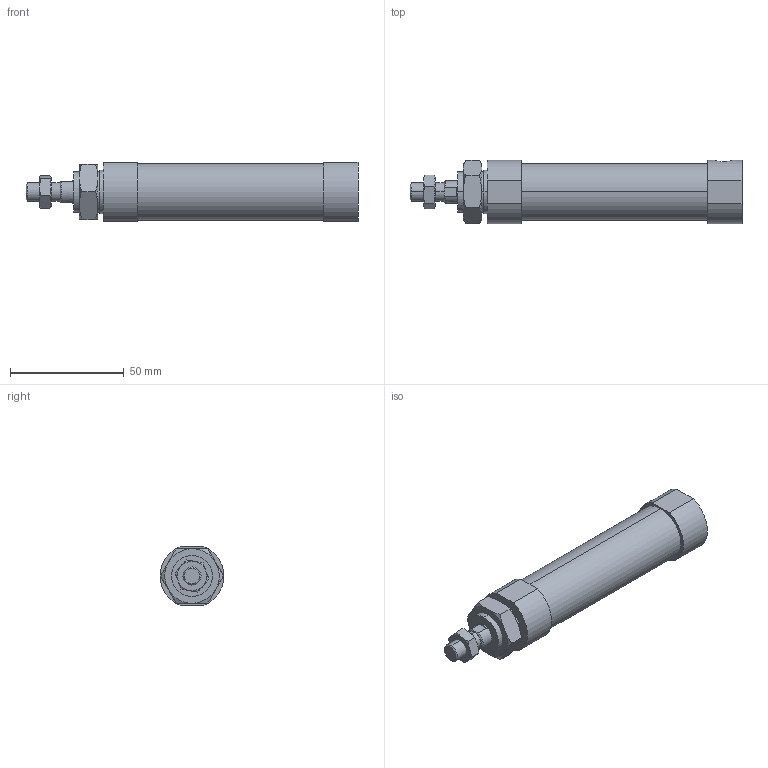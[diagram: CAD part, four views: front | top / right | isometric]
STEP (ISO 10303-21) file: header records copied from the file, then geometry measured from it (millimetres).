
FILE_DESCRIPTION (( 'STEP AP203' ), '1' );
FILE_NAME ('JGND1-20-15(25)-N.STEP', '2016-08-04T02:13:09', ( '' ), ( '' ), 'SwSTEP 2.0', 'SolidWorks 2014', '' );
FILE_SCHEMA (( 'CONFIG_CONTROL_DESIGN' ));
Length unit declared in the file: millimetre
Products named in the file (4): J#1-20-15(P); JGND1-20-15(25)-N
Assembly tree (3 placements, depth 2):
  JGND1-20-15(25)-N
    J#1-20-15(P)
    (unnamed)
    (unnamed)
Bounding box: 146 x 28 x 26 mm (x, y, z)
Volume: 64899.1 mm3; surface area: 14286.4 mm2
Topology: 3 solids, 3 shells, 81 faces, 176 edges, 108 vertices
Faces by surface type: plane 33, torus 24, cylinder 20, cone 4
Entity records: 2900 total; most frequent: CARTESIAN_POINT 761, DIRECTION 366, ORIENTED_EDGE 352, EDGE_CURVE 176, AXIS2_PLACEMENT_3D 157, VERTEX_POINT 108, EDGE_LOOP 92, FACE_OUTER_BOUND 81
